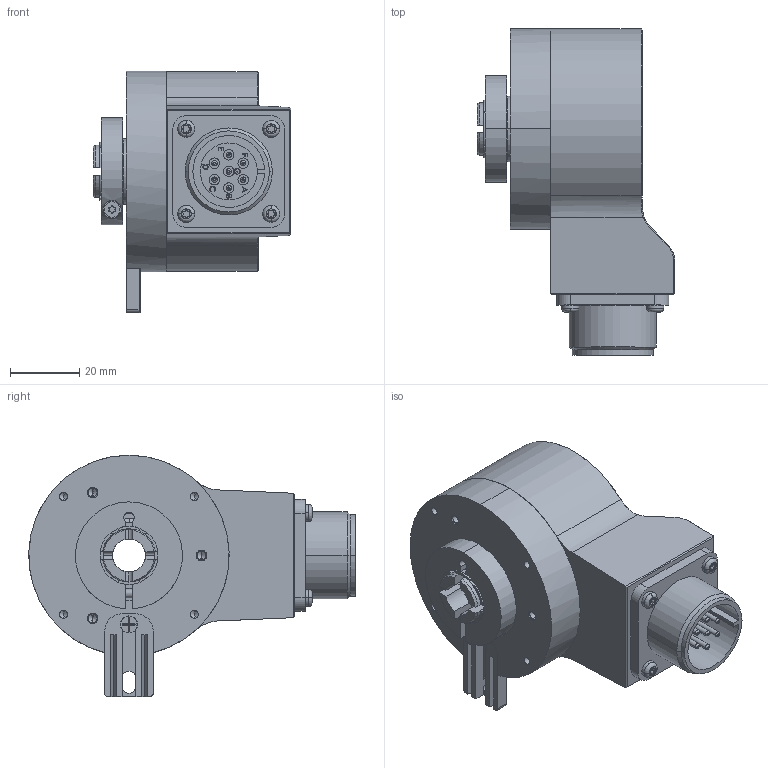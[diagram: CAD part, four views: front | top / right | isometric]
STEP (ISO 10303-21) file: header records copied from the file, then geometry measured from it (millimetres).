
FILE_DESCRIPTION (( 'STEP AP203' ), '1' );
FILE_NAME ('K58I.OXX.XXXXX.XH2152A.6XRCD.step', '2025-12-08T14:23:49', ( '' ), ( '' ), 'SwSTEP 2.0', 'SolidWorks 2021', '' );
FILE_SCHEMA (( 'CONFIG_CONTROL_DESIGN' ));
Length unit declared in the file: millimetre
Products named in the file (1): K58I.OXX.XXXXX.XH2152A.6XRCD
Bounding box: 57.3 x 94.5 x 69.9 mm (x, y, z)
Volume: 134863.6 mm3; surface area: 41689.7 mm2
Topology: 8 solids, 8 shells, 582 faces, 1469 edges, 938 vertices
Faces by surface type: cylinder 230, plane 225, cone 55, bspline 50, torus 22
Entity records: 21470 total; most frequent: CARTESIAN_POINT 7454, ORIENTED_EDGE 2910, DIRECTION 2895, EDGE_CURVE 1455, AXIS2_PLACEMENT_3D 1071, VERTEX_POINT 938, LINE 753, VECTOR 753
